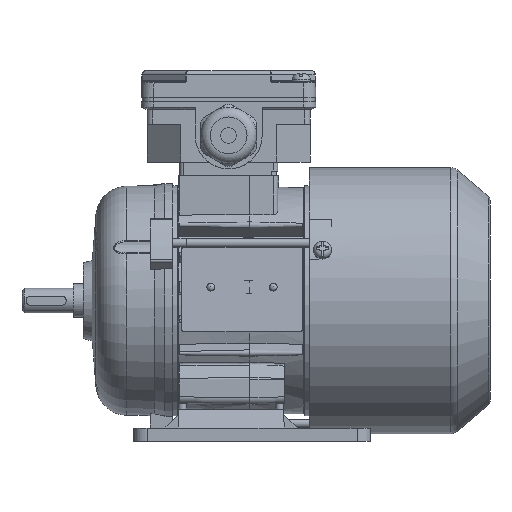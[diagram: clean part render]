
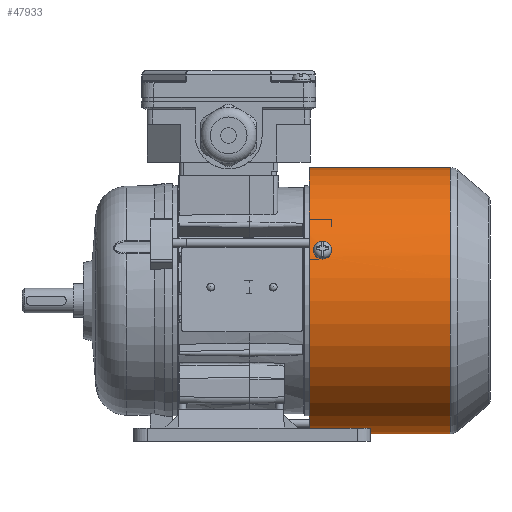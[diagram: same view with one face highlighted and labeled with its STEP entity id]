
A CAD part, front view. The second image highlights one B-rep face of the part: STEP entity #47933.
In plain terms, the highlighted cylindrical face has radius 59.6 mm (diameter 119.2 mm), a full revolution.
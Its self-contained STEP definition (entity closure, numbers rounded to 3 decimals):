
#5710=CYLINDRICAL_SURFACE('',#50091,59.6);
#7419=B_SPLINE_CURVE_WITH_KNOTS('',3,(#66863,#66864,#66865,#66866,#66867,
#66868,#66869),.UNSPECIFIED.,.F.,.F.,(4,1,1,1,4),(0.,
0.002,0.004,0.006,0.007),
 .UNSPECIFIED.);
#7420=B_SPLINE_CURVE_WITH_KNOTS('',3,(#66876,#66877,#66878,#66879,#66880,
#66881,#66882),.UNSPECIFIED.,.F.,.F.,(4,1,1,1,4),(0.,
0.002,0.004,0.006,0.007),
 .UNSPECIFIED.);
#7421=B_SPLINE_CURVE_WITH_KNOTS('',3,(#66911,#66912,#66913,#66914,#66915,
#66916,#66917),.UNSPECIFIED.,.F.,.F.,(4,1,1,1,4),(0.,
0.002,0.004,0.006,0.008),
 .UNSPECIFIED.);
#7422=B_SPLINE_CURVE_WITH_KNOTS('',3,(#66922,#66923,#66924,#66925,#66926,
#66927,#66928),.UNSPECIFIED.,.F.,.F.,(4,1,1,1,4),(0.,0.002,
0.004,0.006,0.008),
 .UNSPECIFIED.);
#7423=B_SPLINE_CURVE_WITH_KNOTS('',3,(#66931,#66932,#66933,#66934,#66935,
#66936,#66937),.UNSPECIFIED.,.F.,.F.,(4,1,1,1,4),(0.,0.002,
0.004,0.006,0.008),
 .UNSPECIFIED.);
#7424=B_SPLINE_CURVE_WITH_KNOTS('',3,(#66942,#66943,#66944,#66945,#66946,
#66947,#66948),.UNSPECIFIED.,.F.,.F.,(4,1,1,1,4),(0.,0.002,
0.004,0.006,0.008),
 .UNSPECIFIED.);
#9908=ORIENTED_EDGE('',*,*,#19736,.T.);
#9909=ORIENTED_EDGE('',*,*,#19737,.T.);
#9910=ORIENTED_EDGE('',*,*,#19738,.T.);
#9911=ORIENTED_EDGE('',*,*,#19739,.T.);
#9912=ORIENTED_EDGE('',*,*,#19719,.F.);
#9913=ORIENTED_EDGE('',*,*,#19722,.F.);
#9914=ORIENTED_EDGE('',*,*,#19740,.T.);
#9915=ORIENTED_EDGE('',*,*,#19741,.T.);
#9916=ORIENTED_EDGE('',*,*,#19742,.T.);
#9917=ORIENTED_EDGE('',*,*,#19743,.T.);
#9918=ORIENTED_EDGE('',*,*,#19744,.F.);
#9919=ORIENTED_EDGE('',*,*,#19745,.T.);
#19719=EDGE_CURVE('',#24754,#24755,#7419,.T.);
#19722=EDGE_CURVE('',#24755,#24754,#7420,.T.);
#19736=EDGE_CURVE('',#24770,#24771,#7421,.T.);
#19737=EDGE_CURVE('',#24771,#24772,#27828,.F.);
#19738=EDGE_CURVE('',#24772,#24773,#7422,.T.);
#19739=EDGE_CURVE('',#24773,#24770,#27829,.F.);
#19740=EDGE_CURVE('',#24774,#24775,#7423,.T.);
#19741=EDGE_CURVE('',#24775,#24776,#27830,.F.);
#19742=EDGE_CURVE('',#24776,#24777,#7424,.T.);
#19743=EDGE_CURVE('',#24777,#24774,#27831,.F.);
#19744=EDGE_CURVE('',#24778,#24778,#27832,.T.);
#19745=EDGE_CURVE('',#24779,#24779,#27833,.F.);
#24754=VERTEX_POINT('',#66861);
#24755=VERTEX_POINT('',#66862);
#24770=VERTEX_POINT('',#66918);
#24771=VERTEX_POINT('',#66919);
#24772=VERTEX_POINT('',#66921);
#24773=VERTEX_POINT('',#66929);
#24774=VERTEX_POINT('',#66938);
#24775=VERTEX_POINT('',#66939);
#24776=VERTEX_POINT('',#66941);
#24777=VERTEX_POINT('',#66949);
#24778=VERTEX_POINT('',#66952);
#24779=VERTEX_POINT('',#66954);
#27828=CIRCLE('',#50092,59.6);
#27829=CIRCLE('',#50093,59.6);
#27830=CIRCLE('',#50094,59.6);
#27831=CIRCLE('',#50095,59.6);
#27832=CIRCLE('',#50096,59.6);
#27833=CIRCLE('',#50097,59.6);
#29432=EDGE_LOOP('',(#9908,#9909,#9910,#9911));
#29433=EDGE_LOOP('',(#9912,#9913));
#29434=EDGE_LOOP('',(#9914,#9915,#9916,#9917));
#29435=EDGE_LOOP('',(#9918));
#29436=EDGE_LOOP('',(#9919));
#31748=FACE_BOUND('',#29432,.T.);
#31749=FACE_BOUND('',#29433,.T.);
#31750=FACE_BOUND('',#29434,.T.);
#31751=FACE_BOUND('',#29435,.T.);
#31752=FACE_BOUND('',#29436,.T.);
#47933=ADVANCED_FACE('',(#31748,#31749,#31750,#31751,#31752),#5710,.T.);
#50091=AXIS2_PLACEMENT_3D('',#66910,#54594,#54595);
#50092=AXIS2_PLACEMENT_3D('',#66920,#54596,#54597);
#50093=AXIS2_PLACEMENT_3D('',#66930,#54598,#54599);
#50094=AXIS2_PLACEMENT_3D('',#66940,#54600,#54601);
#50095=AXIS2_PLACEMENT_3D('',#66950,#54602,#54603);
#50096=AXIS2_PLACEMENT_3D('',#66951,#54604,#54605);
#50097=AXIS2_PLACEMENT_3D('',#66953,#54606,#54607);
#54594=DIRECTION('',(-1.,0.,0.));
#54595=DIRECTION('',(0.,0.,1.));
#54596=DIRECTION('',(-1.,0.,0.));
#54597=DIRECTION('',(0.,0.866,-0.5));
#54598=DIRECTION('',(1.,0.,0.));
#54599=DIRECTION('',(0.,-0.866,0.5));
#54600=DIRECTION('',(-1.,0.,0.));
#54601=DIRECTION('',(0.,0.,1.));
#54602=DIRECTION('',(1.,0.,0.));
#54603=DIRECTION('',(0.,0.,-1.));
#54604=DIRECTION('',(-1.,0.,0.));
#54605=DIRECTION('',(0.,0.,1.));
#54606=DIRECTION('',(1.,0.,0.));
#54607=DIRECTION('',(0.,0.,-1.));
#66861=CARTESIAN_POINT('',(35.,8.295,-59.02));
#66862=CARTESIAN_POINT('',(30.,8.295,-59.02));
#66863=CARTESIAN_POINT('',(35.,8.295,-59.02));
#66864=CARTESIAN_POINT('',(34.937,7.681,-59.106));
#66865=CARTESIAN_POINT('',(34.356,6.499,-59.249));
#66866=CARTESIAN_POINT('',(32.502,5.777,-59.318));
#66867=CARTESIAN_POINT('',(30.649,6.493,-59.25));
#66868=CARTESIAN_POINT('',(30.063,7.681,-59.106));
#66869=CARTESIAN_POINT('',(30.,8.295,-59.02));
#66876=CARTESIAN_POINT('',(30.,8.295,-59.02));
#66877=CARTESIAN_POINT('',(30.063,8.908,-58.934));
#66878=CARTESIAN_POINT('',(30.644,10.084,-58.746));
#66879=CARTESIAN_POINT('',(32.498,10.797,-58.613));
#66880=CARTESIAN_POINT('',(34.351,10.09,-58.745));
#66881=CARTESIAN_POINT('',(34.937,8.908,-58.934));
#66882=CARTESIAN_POINT('',(35.,8.295,-59.02));
#66910=CARTESIAN_POINT('',(-33.5,0.,0.));
#66911=CARTESIAN_POINT('',(30.,47.484,36.02));
#66912=CARTESIAN_POINT('',(30.,47.883,35.493));
#66913=CARTESIAN_POINT('',(30.542,48.645,34.446));
#66914=CARTESIAN_POINT('',(32.498,49.108,33.771));
#66915=CARTESIAN_POINT('',(34.458,48.646,34.444));
#66916=CARTESIAN_POINT('',(35.,47.883,35.493));
#66917=CARTESIAN_POINT('',(35.,47.484,36.02));
#66918=CARTESIAN_POINT('',(30.,47.484,36.02));
#66919=CARTESIAN_POINT('',(35.,47.484,36.02));
#66920=CARTESIAN_POINT('',(35.,0.,0.));
#66921=CARTESIAN_POINT('',(35.,46.437,37.36));
#66922=CARTESIAN_POINT('',(35.,46.437,37.36));
#66923=CARTESIAN_POINT('',(35.,46.023,37.874));
#66924=CARTESIAN_POINT('',(34.458,45.191,38.867));
#66925=CARTESIAN_POINT('',(32.502,44.648,39.479));
#66926=CARTESIAN_POINT('',(30.542,45.19,38.869));
#66927=CARTESIAN_POINT('',(30.,46.023,37.874));
#66928=CARTESIAN_POINT('',(30.,46.437,37.36));
#66929=CARTESIAN_POINT('',(30.,46.437,37.36));
#66930=CARTESIAN_POINT('',(30.,0.,0.));
#66931=CARTESIAN_POINT('',(30.,-54.936,23.112));
#66932=CARTESIAN_POINT('',(30.,-54.68,23.721));
#66933=CARTESIAN_POINT('',(30.542,-54.154,24.905));
#66934=CARTESIAN_POINT('',(32.498,-53.8,25.643));
#66935=CARTESIAN_POINT('',(34.458,-54.153,24.907));
#66936=CARTESIAN_POINT('',(35.,-54.68,23.721));
#66937=CARTESIAN_POINT('',(35.,-54.936,23.112));
#66938=CARTESIAN_POINT('',(30.,-54.936,23.112));
#66939=CARTESIAN_POINT('',(35.,-54.936,23.112));
#66940=CARTESIAN_POINT('',(35.,0.,0.));
#66941=CARTESIAN_POINT('',(35.,-55.573,21.536));
#66942=CARTESIAN_POINT('',(35.,-55.573,21.536));
#66943=CARTESIAN_POINT('',(35.,-55.812,20.92));
#66944=CARTESIAN_POINT('',(34.458,-56.255,19.703));
#66945=CARTESIAN_POINT('',(32.502,-56.514,18.927));
#66946=CARTESIAN_POINT('',(30.542,-56.256,19.701));
#66947=CARTESIAN_POINT('',(30.,-55.812,20.92));
#66948=CARTESIAN_POINT('',(30.,-55.573,21.536));
#66949=CARTESIAN_POINT('',(30.,-55.573,21.536));
#66950=CARTESIAN_POINT('',(30.,0.,0.));
#66951=CARTESIAN_POINT('',(26.5,0.,0.));
#66952=CARTESIAN_POINT('',(26.5,0.,59.6));
#66953=CARTESIAN_POINT('',(89.809,0.,0.));
#66954=CARTESIAN_POINT('',(89.809,0.,-59.6));
